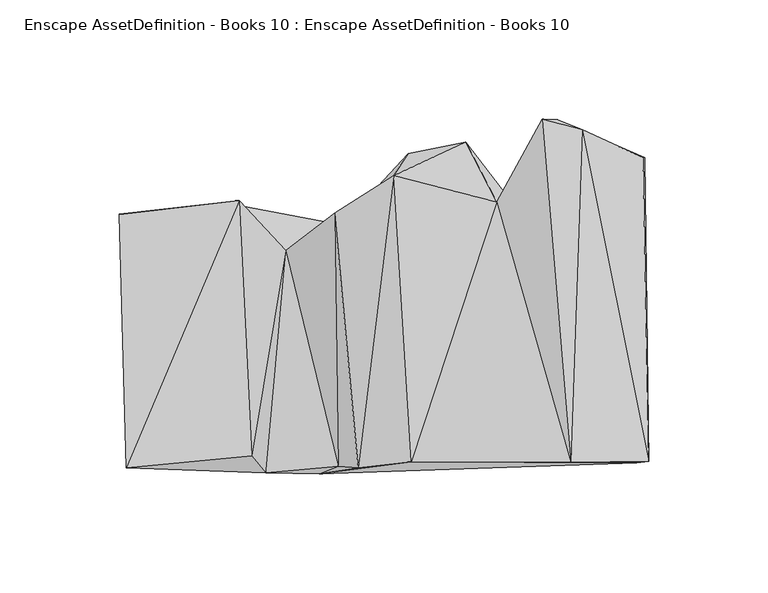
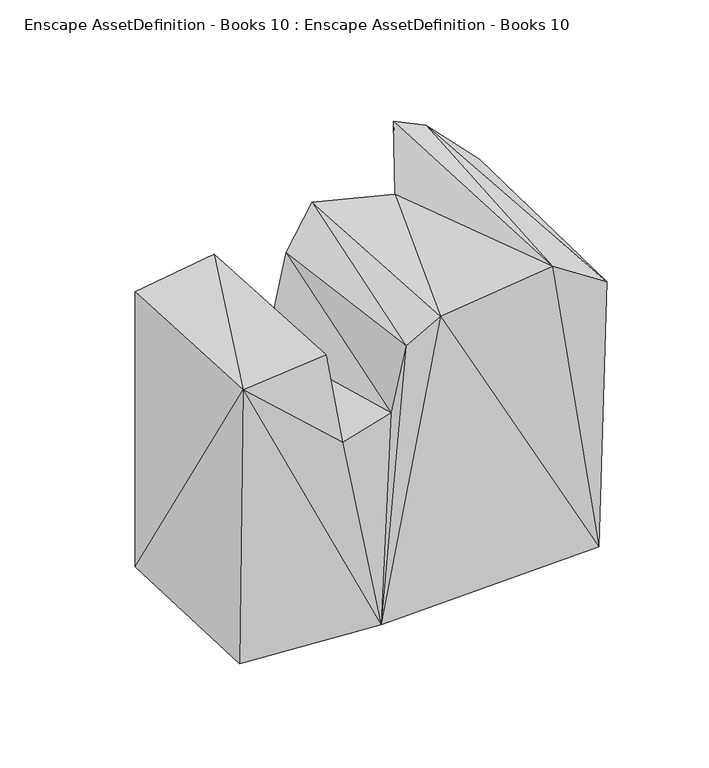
"""IFC4 building model written with IfcOpenShell, lengths in millimetres: geographic element geometry, Enscape AssetDefinition - Books 10 : Enscape AssetDefinition - Books 10."""

from ifc_helpers import new_model, si_unit, origin, place, context, project, spatial, faceted_brep, source, transform, mapped, element, save


def enscape_assetdefinition_books_10_enscape_assetdefinition_bd5f69e2(model_context):
    return source(origin(), model_context, "Body", "Brep", [
        faceted_brep([(-112.5829965, 36.0849984, 0.0), (-109.5689982, -67.0399964, 0.0), (-109.604001, -70.6980005, 175.5149961), (-28.4800008, -73.220998, 0.0), (-112.6379967, 35.8779989, 174.070999), (-65.5980036, 40.2190015, 0.0), (-62.0739982, 41.6090004, 176.5770018), (-56.981001, -65.5890033, 176.165998), (-51.0880016, -72.7989972, 123.2739985), (-42.6889993, 20.7630005, 125.5729944), (-18.8449994, 31.5390006, 0.0), (-20.6390005, -70.0849965, 129.6000034), (-22.0110007, 36.4519991, 166.7529941), (-12.0630004, -70.7319975, 169.4539934), (2.807, 52.2239991, 180.1889986), (8.7649999, 61.586, 0.0), (33.0779999, 66.2249997, 0.0), (10.063, -68.2220012, 178.6250025), (46.0320003, 41.1279984, 177.0430058), (53.0290008, 40.2639993, 0.0), (104.813002, -68.4159994, 0.0), (65.1680008, 76.0260001, 195.2780038), (77.1280006, -68.2640001, 187.018007), (109.9409983, -67.828998, 165.4690057), (71.514003, 75.658001, 0.0), (108.1530005, 59.7449988, 0.0), (81.867002, 71.4420006, 189.6809936), (107.4429974, 59.8689988, 166.1619991)], [[[0, 1, 2]], [[0, 3, 1]], [[3, 2, 1]], [[0, 2, 4]], [[5, 3, 0]], [[4, 6, 0]], [[6, 5, 0]], [[6, 4, 2]], [[6, 2, 7]], [[8, 2, 3]], [[7, 2, 8]], [[6, 7, 9]], [[6, 9, 5]], [[5, 10, 3]], [[9, 10, 5]], [[9, 7, 8]], [[9, 8, 11]], [[12, 9, 11]], [[9, 12, 10]], [[11, 8, 3]], [[13, 12, 11]], [[13, 11, 3]], [[14, 10, 12]], [[12, 13, 14]], [[10, 15, 3]], [[14, 15, 10]], [[16, 15, 14]], [[14, 17, 18]], [[18, 16, 14]], [[14, 13, 17]], [[17, 13, 3]], [[3, 19, 20]], [[17, 3, 20]], [[15, 19, 3]], [[16, 19, 15]], [[19, 16, 18]], [[21, 19, 18]], [[18, 17, 22]], [[21, 18, 22]], [[17, 20, 22]], [[23, 22, 20]], [[24, 25, 20]], [[19, 24, 20]], [[25, 23, 20]], [[21, 24, 19]], [[26, 21, 22]], [[21, 26, 24]], [[26, 22, 23]], [[27, 26, 23]], [[25, 27, 23]], [[24, 27, 25]], [[26, 27, 24]]]),
    ])


if __name__ == "__main__":
    model = new_model("IFC4")
    model_context = context("Model", 3, world=origin())
    ifc_project = project(units=[si_unit("LENGTHUNIT", "METRE", prefix="MILLI")], contexts=[model_context])
    site = spatial("IfcSite", under=ifc_project)
    building = spatial("IfcBuilding", under=site)
    placement = place(None, origin())
    enscape_assetdefinition_books_10_enscape_assetdefinition_shape = enscape_assetdefinition_books_10_enscape_assetdefinition_bd5f69e2(model_context)
    element("IfcGeographicElement", 1, ObjectType="Enscape AssetDefinition - Books 10 : Enscape AssetDefinition - Books 10", at=placement, inside=building, context=model_context, shape_type="MappedRepresentation", body=[
        mapped(enscape_assetdefinition_books_10_enscape_assetdefinition_shape, transform((0.0, 0.0, 0.0), x_axis=(1.0, 0.0, 0.0), y_axis=(0.0, 1.0, 0.0), z_axis=(0.0, 0.0, 1.0))),
    ])
    save(model, "model.ifc")
